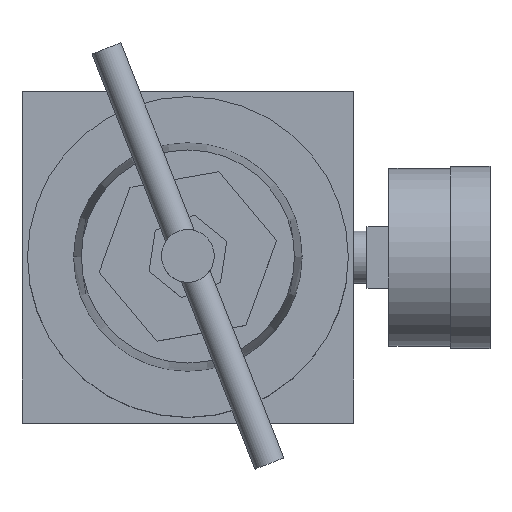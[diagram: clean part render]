
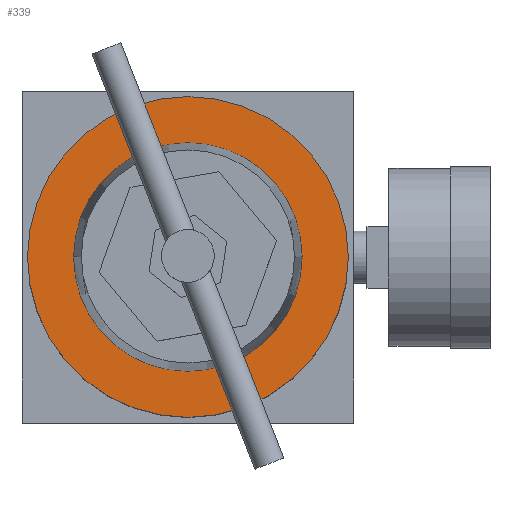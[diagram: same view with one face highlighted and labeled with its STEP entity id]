
A CAD part, top view. The second image highlights one B-rep face of the part: STEP entity #339.
In plain terms, the highlighted planar face has unit normal (0, 0, 1).
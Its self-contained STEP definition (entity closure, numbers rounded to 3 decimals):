
#71 = PLANE ( 'NONE',  #2374 ) ;
#108 = DIRECTION ( 'NONE',  ( 0., 0., 1. ) ) ;
#165 = DIRECTION ( 'NONE',  ( 1., 0., 0. ) ) ;
#194 = CIRCLE ( 'NONE', #1907, 26. ) ;
#305 = ORIENTED_EDGE ( 'NONE', *, *, #1005, .F. ) ;
#322 = CARTESIAN_POINT ( 'NONE',  ( -54.49, 23.663, 98. ) ) ;
#339 = ADVANCED_FACE ( 'NONE', ( #1343, #1643 ), #71, .T. ) ;
#381 = ORIENTED_EDGE ( 'NONE', *, *, #1099, .T. ) ;
#426 = CARTESIAN_POINT ( 'NONE',  ( -17.99, 23.663, 98. ) ) ;
#467 = CIRCLE ( 'NONE', #1516, 36.5 ) ;
#661 = DIRECTION ( 'NONE',  ( 0., 0., 1. ) ) ;
#664 = CIRCLE ( 'NONE', #1628, 26. ) ;
#675 = CARTESIAN_POINT ( 'NONE',  ( -17.99, 23.663, 98. ) ) ;
#713 = CARTESIAN_POINT ( 'NONE',  ( -17.99, 23.663, 98. ) ) ;
#755 = DIRECTION ( 'NONE',  ( 0., 0., 1. ) ) ;
#938 = DIRECTION ( 'NONE',  ( 1., 0., 0. ) ) ;
#950 = EDGE_CURVE ( 'NONE', #2249, #1870, #664, .T. ) ;
#1005 = EDGE_CURVE ( 'NONE', #1870, #2249, #194, .T. ) ;
#1026 = EDGE_LOOP ( 'NONE', ( #2148, #305 ) ) ;
#1099 = EDGE_CURVE ( 'NONE', #1415, #2646, #467, .T. ) ;
#1343 = FACE_OUTER_BOUND ( 'NONE', #1755, .T. ) ;
#1415 = VERTEX_POINT ( 'NONE', #322 ) ;
#1494 = DIRECTION ( 'NONE',  ( 0., 0., 1. ) ) ;
#1508 = CARTESIAN_POINT ( 'NONE',  ( 8.01, 23.663, 98. ) ) ;
#1516 = AXIS2_PLACEMENT_3D ( 'NONE', #713, #108, #938 ) ;
#1589 = CARTESIAN_POINT ( 'NONE',  ( 18.51, 23.663, 98. ) ) ;
#1628 = AXIS2_PLACEMENT_3D ( 'NONE', #2626, #755, #1798 ) ;
#1643 = FACE_BOUND ( 'NONE', #1026, .T. ) ;
#1728 = DIRECTION ( 'NONE',  ( 1., 0., 0. ) ) ;
#1755 = EDGE_LOOP ( 'NONE', ( #381, #2132 ) ) ;
#1798 = DIRECTION ( 'NONE',  ( 1., 0., 0. ) ) ;
#1857 = DIRECTION ( 'NONE',  ( 0., 0., 1. ) ) ;
#1870 = VERTEX_POINT ( 'NONE', #1508 ) ;
#1907 = AXIS2_PLACEMENT_3D ( 'NONE', #2260, #1857, #165 ) ;
#2131 = DIRECTION ( 'NONE',  ( 1., 0., 0. ) ) ;
#2132 = ORIENTED_EDGE ( 'NONE', *, *, #2386, .T. ) ;
#2148 = ORIENTED_EDGE ( 'NONE', *, *, #950, .F. ) ;
#2198 = CIRCLE ( 'NONE', #2562, 36.5 ) ;
#2249 = VERTEX_POINT ( 'NONE', #2496 ) ;
#2260 = CARTESIAN_POINT ( 'NONE',  ( -17.99, 23.663, 98. ) ) ;
#2374 = AXIS2_PLACEMENT_3D ( 'NONE', #675, #661, #1728 ) ;
#2386 = EDGE_CURVE ( 'NONE', #2646, #1415, #2198, .T. ) ;
#2496 = CARTESIAN_POINT ( 'NONE',  ( -43.99, 23.663, 98. ) ) ;
#2562 = AXIS2_PLACEMENT_3D ( 'NONE', #426, #1494, #2131 ) ;
#2626 = CARTESIAN_POINT ( 'NONE',  ( -17.99, 23.663, 98. ) ) ;
#2646 = VERTEX_POINT ( 'NONE', #1589 ) ;
